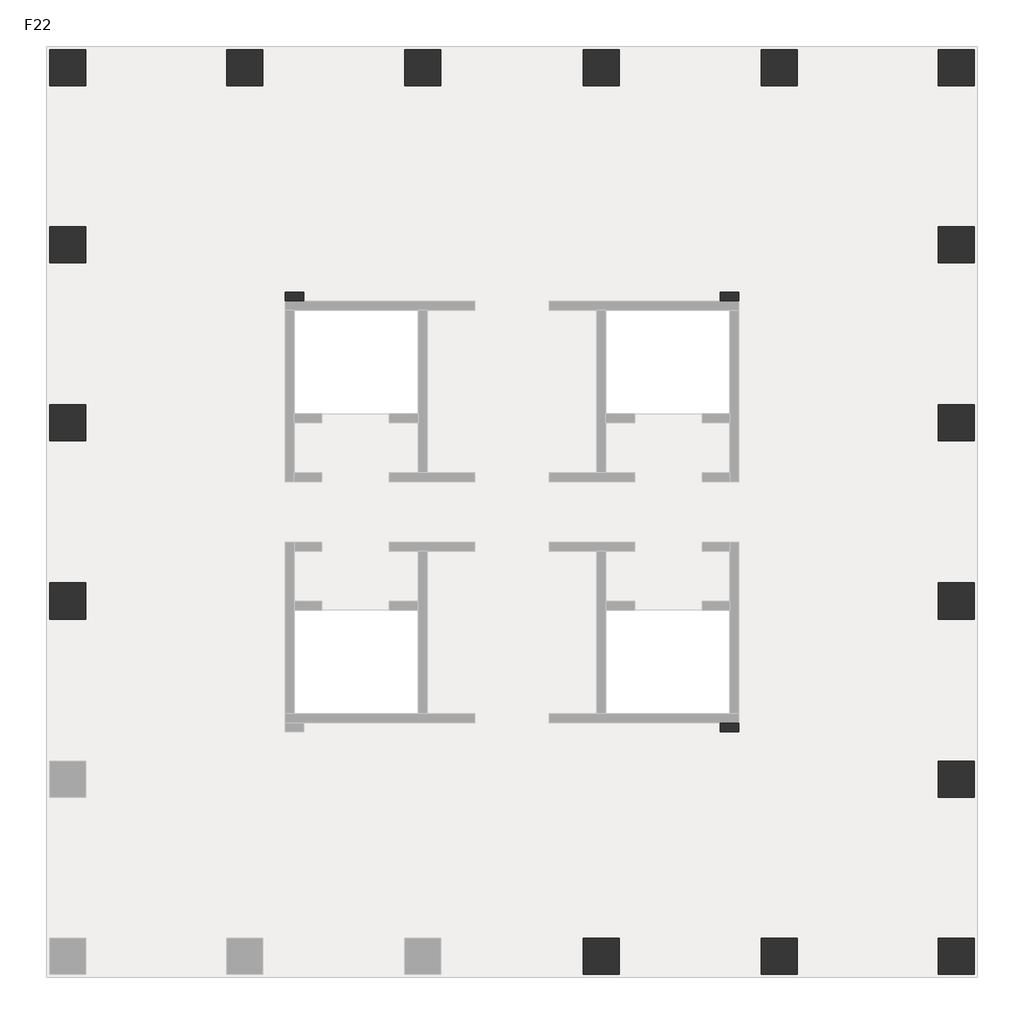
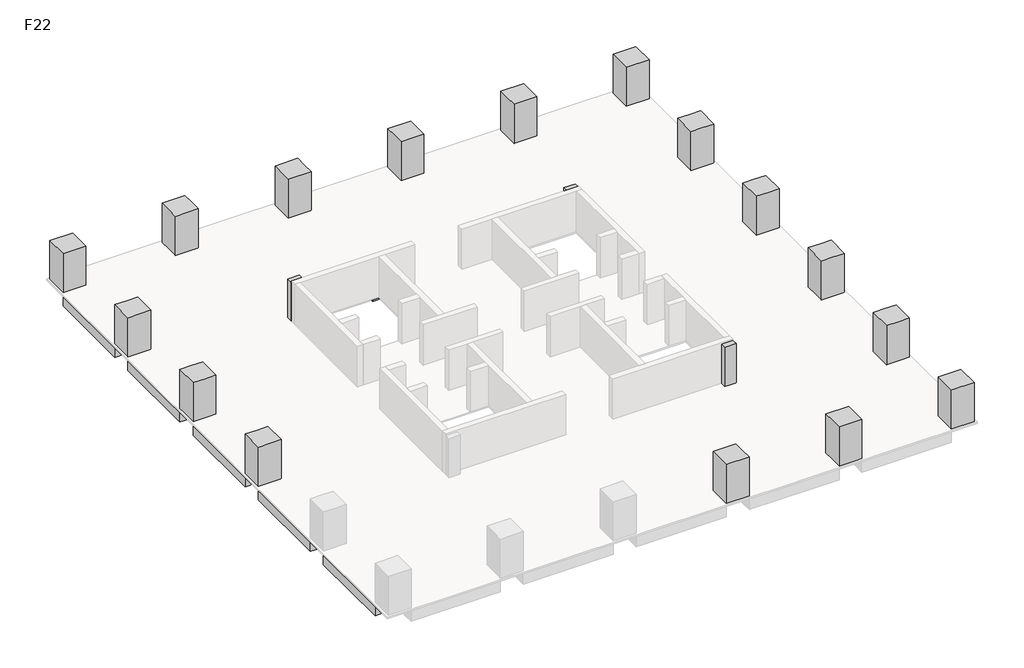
# One storey, part 2 of 2: 19 columns, 17 beams.
"""IFC4 building model written with IfcOpenShell, lengths in millimetres."""

from ifc_helpers import new_model, si_unit, frame, origin, place, context, project, spatial, polyline, outline, extrude, faceted_brep, element, save

model = new_model("IFC4")

# Units and contexts
model_context = context("Model", 3, world=origin())
ifc_project = project(units=[si_unit("LENGTHUNIT", "METRE", prefix="MILLI")], contexts=[model_context])

# Site, building, storey
site = spatial("IfcSite", under=ifc_project)
building = spatial("IfcBuilding", under=site)
storey = spatial("IfcBuildingStorey", under=building, Name="F22", Elevation=84000.0)

# Beams
placement = place(None, origin())
element("IfcBeam", 1, ObjectType="混凝土 - 矩形梁 : KL(5)-800x1000", at=placement, inside=storey, context=model_context, shape_type="SweptSolid", body=[
    extrude(outline(polyline([(25327.3257831, 27051.0498658), (25327.3257831, 26251.0498658), (19077.3257831, 26251.0498658), (19077.3257831, 27051.0498658), (25327.3257831, 27051.0498658)])), frame((0.0, 0.0, 83000.0), z_axis=(0.0, 0.0, 1.0), x_axis=(1.0, 0.0, 0.0)), (0.0, 0.0, 1.0), 900.0),
    extrude(outline(polyline([(-12472.6742169, 26251.0498658), (-12472.6742169, 27051.0498658), (-6222.6742169, 27051.0498658), (-6222.6742169, 26251.0498658), (-12472.6742169, 26251.0498658)])), frame((0.0, 0.0, 83000.0), z_axis=(0.0, 0.0, 1.0), x_axis=(1.0, 0.0, 0.0)), (0.0, 0.0, 1.0), 900.0),
    extrude(outline(polyline([(-4622.6742169, 26251.0498658), (-4622.6742169, 27051.0498658), (1677.3257831, 27051.0498658), (1677.3257831, 26251.0498658), (-4622.6742169, 26251.0498658)])), frame((0.0, 0.0, 83000.0), z_axis=(0.0, 0.0, 1.0), x_axis=(1.0, 0.0, 0.0)), (0.0, 0.0, 1.0), 900.0),
    extrude(outline(polyline([(3277.3257831, 26251.0498658), (3277.3257831, 27051.0498658), (9577.3257831, 27051.0498658), (9577.3257831, 26251.0498658), (3277.3257831, 26251.0498658)])), frame((0.0, 0.0, 83000.0), z_axis=(0.0, 0.0, 1.0), x_axis=(1.0, 0.0, 0.0)), (0.0, 0.0, 1.0), 900.0),
    extrude(outline(polyline([(11177.3257831, 26251.0498658), (11177.3257831, 27051.0498658), (17477.3257831, 27051.0498658), (17477.3257831, 26251.0498658), (11177.3257831, 26251.0498658)])), frame((0.0, 0.0, 83000.0), z_axis=(0.0, 0.0, 1.0), x_axis=(1.0, 0.0, 0.0)), (0.0, 0.0, 1.0), 900.0),
])
element("IfcBeam", 2, ObjectType="混凝土 - 矩形梁 : KL(5)-800x1000", at=placement, inside=storey, context=model_context, shape_type="SweptSolid", body=[
    extrude(outline(polyline([(26927.3257831, -12348.9501342), (26127.3257831, -12348.9501342), (26127.3257831, -6098.9501342), (26927.3257831, -6098.9501342), (26927.3257831, -12348.9501342)])), frame((0.0, 0.0, 83000.0), z_axis=(0.0, 0.0, 1.0), x_axis=(1.0, 0.0, 0.0)), (0.0, 0.0, 1.0), 900.0),
    extrude(outline(polyline([(26127.3257831, 25451.0498658), (26927.3257831, 25451.0498658), (26927.3257831, 19201.0498658), (26127.3257831, 19201.0498658), (26127.3257831, 25451.0498658)])), frame((0.0, 0.0, 83000.0), z_axis=(0.0, 0.0, 1.0), x_axis=(1.0, 0.0, 0.0)), (0.0, 0.0, 1.0), 900.0),
    extrude(outline(polyline([(26127.3257831, 17601.0498658), (26927.3257831, 17601.0498658), (26927.3257831, 11301.0498658), (26127.3257831, 11301.0498658), (26127.3257831, 17601.0498658)])), frame((0.0, 0.0, 83000.0), z_axis=(0.0, 0.0, 1.0), x_axis=(1.0, 0.0, 0.0)), (0.0, 0.0, 1.0), 900.0),
    extrude(outline(polyline([(26127.3257831, 9701.0498658), (26927.3257831, 9701.0498658), (26927.3257831, 3401.0498658), (26127.3257831, 3401.0498658), (26127.3257831, 9701.0498658)])), frame((0.0, 0.0, 83000.0), z_axis=(0.0, 0.0, 1.0), x_axis=(1.0, 0.0, 0.0)), (0.0, 0.0, 1.0), 900.0),
    extrude(outline(polyline([(26127.3257831, 1801.0498658), (26927.3257831, 1801.0498658), (26927.3257831, -4498.9501342), (26127.3257831, -4498.9501342), (26127.3257831, 1801.0498658)])), frame((0.0, 0.0, 83000.0), z_axis=(0.0, 0.0, 1.0), x_axis=(1.0, 0.0, 0.0)), (0.0, 0.0, 1.0), 900.0),
])
element("IfcBeam", 3, ObjectType="混凝土 - 矩形梁 : KL(5)-800x1000", at=placement, inside=storey, context=model_context, shape_type="SweptSolid", body=[
    extrude(outline(polyline([(-14072.6742169, 25451.0498658), (-13272.6742169, 25451.0498658), (-13272.6742169, 19201.0498658), (-14072.6742169, 19201.0498658), (-14072.6742169, 25451.0498658)])), frame((0.0, 0.0, 83000.0), z_axis=(0.0, 0.0, 1.0), x_axis=(1.0, 0.0, 0.0)), (0.0, 0.0, 1.0), 900.0),
    extrude(outline(polyline([(-13272.6742169, -12348.9501342), (-14072.6742169, -12348.9501342), (-14072.6742169, -6098.9501342), (-13272.6742169, -6098.9501342), (-13272.6742169, -12348.9501342)])), frame((0.0, 0.0, 83000.0), z_axis=(0.0, 0.0, 1.0), x_axis=(1.0, 0.0, 0.0)), (0.0, 0.0, 1.0), 900.0),
    extrude(outline(polyline([(-14072.6742169, 17601.0498658), (-13272.6742169, 17601.0498658), (-13272.6742169, 11301.0498658), (-14072.6742169, 11301.0498658), (-14072.6742169, 17601.0498658)])), frame((0.0, 0.0, 83000.0), z_axis=(0.0, 0.0, 1.0), x_axis=(1.0, 0.0, 0.0)), (0.0, 0.0, 1.0), 900.0),
    extrude(outline(polyline([(-14072.6742169, 9701.0498658), (-13272.6742169, 9701.0498658), (-13272.6742169, 3401.0498658), (-14072.6742169, 3401.0498658), (-14072.6742169, 9701.0498658)])), frame((0.0, 0.0, 83000.0), z_axis=(0.0, 0.0, 1.0), x_axis=(1.0, 0.0, 0.0)), (0.0, 0.0, 1.0), 900.0),
    extrude(outline(polyline([(-14072.6742169, 1801.0498658), (-13272.6742169, 1801.0498658), (-13272.6742169, -4498.9501342), (-14072.6742169, -4498.9501342), (-14072.6742169, 1801.0498658)])), frame((0.0, 0.0, 83000.0), z_axis=(0.0, 0.0, 1.0), x_axis=(1.0, 0.0, 0.0)), (0.0, 0.0, 1.0), 900.0),
])
element("IfcBeam", 4, ObjectType="混凝土 - 矩形梁 : L1-800x500", at=placement, inside=storey, context=model_context, shape_type="SweptSolid", body=[
    extrude(outline(polyline([(-12472.6742169, 2201.0498658), (-12472.6742169, 3001.0498658), (-3622.6742169, 3001.0498658), (-3622.6742169, 2201.0498658), (-12472.6742169, 2201.0498658)])), frame((0.0, 0.0, 83500.0), z_axis=(0.0, 0.0, 1.0), x_axis=(1.0, 0.0, 0.0)), (0.0, 0.0, 1.0), 400.0),
])
element("IfcBeam", 5, ObjectType="混凝土 - 矩形梁 : L1-800x500", at=placement, inside=storey, context=model_context, shape_type="SweptSolid", body=[
    extrude(outline(polyline([(-12472.6742169, 10101.0498658), (-12472.6742169, 10901.0498658), (-3622.6742169, 10901.0498658), (-3622.6742169, 10101.0498658), (-12472.6742169, 10101.0498658)])), frame((0.0, 0.0, 83500.0), z_axis=(0.0, 0.0, 1.0), x_axis=(1.0, 0.0, 0.0)), (0.0, 0.0, 1.0), 400.0),
])
element("IfcBeam", 6, ObjectType="混凝土 - 矩形梁 : L1-800x500", at=placement, inside=storey, context=model_context, shape_type="Brep", body=[
    faceted_brep([(-12472.6742169, 17789.85471, 83500.0), (-3622.6742169, 15588.3621727, 83500.0), (-3622.6742169, 15588.3621727, 83900.0), (-12472.6742169, 17789.85471, 83900.0), (-3173.6696907, 16301.0498658, 83500.0), (-3622.6742169, 16301.0498658, 83500.0), (-3622.6742169, 15901.0498658, 83500.0), (-12472.6742169, 18614.2350714, 83500.0), (-3746.9473979, 16443.6562607, 83500.0), (-12472.6742169, 18614.2350714, 83900.0), (-3746.9473979, 16443.6562607, 83900.0), (-3173.6696907, 16301.0498658, 83900.0), (-3622.6742169, 16301.0498658, 83900.0)], [[[0, 1, 2, 3]], [[4, 5, 6, 1, 0, 7, 8]], [[4, 8, 7, 9, 10, 11]], [[6, 5, 12, 2, 1]], [[5, 4, 11, 12]], [[7, 0, 3, 9]], [[3, 2, 12, 11, 10, 9]]]),
])
element("IfcBeam", 7, ObjectType="混凝土 - 矩形梁 : L1-800x500", at=placement, inside=storey, context=model_context, shape_type="SweptSolid", body=[
    extrude(outline(polyline([(-3173.6696907, 16301.0498658), (-3746.9473979, 16443.6562607), (-5661.5624638, 25451.0498658), (-4843.6893517, 25451.0498658), (-2898.7618154, 16301.0498658), (-3173.6696907, 16301.0498658)])), frame((0.0, 0.0, 83500.0), z_axis=(0.0, 0.0, 1.0), x_axis=(1.0, 0.0, 0.0)), (0.0, 0.0, 1.0), 400.0),
])
element("IfcBeam", 8, ObjectType="混凝土 - 矩形梁 : L1-800x500", at=placement, inside=storey, context=model_context, shape_type="SweptSolid", body=[
    extrude(outline(polyline([(2077.3257831, 25451.0498658), (2877.3257831, 25451.0498658), (2877.3257831, 15901.0498658), (2077.3257831, 15901.0498658), (2077.3257831, 25451.0498658)])), frame((0.0, 0.0, 83500.0), z_axis=(0.0, 0.0, 1.0), x_axis=(1.0, 0.0, 0.0)), (0.0, 0.0, 1.0), 400.0),
])
element("IfcBeam", 9, ObjectType="混凝土 - 矩形梁 : L1-800x500", at=placement, inside=storey, context=model_context, shape_type="SweptSolid", body=[
    extrude(outline(polyline([(9977.3257831, 25451.0498658), (10777.3257831, 25451.0498658), (10777.3257831, 15901.0498658), (9977.3257831, 15901.0498658), (9977.3257831, 25451.0498658)])), frame((0.0, 0.0, 83500.0), z_axis=(0.0, 0.0, 1.0), x_axis=(1.0, 0.0, 0.0)), (0.0, 0.0, 1.0), 400.0),
])
element("IfcBeam", 10, ObjectType="混凝土 - 矩形梁 : L1-800x500", at=placement, inside=storey, context=model_context, shape_type="SweptSolid", body=[
    extrude(outline(polyline([(2877.3257831, -12348.9501342), (2077.3257831, -12348.9501342), (2077.3257831, -2798.9501342), (2877.3257831, -2798.9501342), (2877.3257831, -12348.9501342)])), frame((0.0, 0.0, 83500.0), z_axis=(0.0, 0.0, 1.0), x_axis=(1.0, 0.0, 0.0)), (0.0, 0.0, 1.0), 400.0),
])
element("IfcBeam", 11, ObjectType="混凝土 - 矩形梁 : L1-800x500", at=placement, inside=storey, context=model_context, shape_type="SweptSolid", body=[
    extrude(outline(polyline([(10777.3257831, -12348.9501342), (9977.3257831, -12348.9501342), (9977.3257831, -2798.9501342), (10777.3257831, -2798.9501342), (10777.3257831, -12348.9501342)])), frame((0.0, 0.0, 83500.0), z_axis=(0.0, 0.0, 1.0), x_axis=(1.0, 0.0, 0.0)), (0.0, 0.0, 1.0), 400.0),
])
element("IfcBeam", 12, ObjectType="混凝土 - 矩形梁 : L1-800x500", at=placement, inside=storey, context=model_context, shape_type="Brep", body=[
    faceted_brep([(25327.3257831, -4687.7549784, 83500.0), (16477.3257831, -2486.2624411, 83500.0), (16477.3257831, -2486.2624411, 83900.0), (25327.3257831, -4687.7549784, 83900.0), (16028.3212569, -3198.9501342, 83500.0), (16477.3257831, -3198.9501342, 83500.0), (16477.3257831, -2798.9501342, 83500.0), (25327.3257831, -5512.1353397, 83500.0), (16601.5989641, -3341.556529, 83500.0), (25327.3257831, -5512.1353397, 83900.0), (16601.5989641, -3341.556529, 83900.0), (16028.3212569, -3198.9501342, 83900.0), (16477.3257831, -3198.9501342, 83900.0)], [[[0, 1, 2, 3]], [[4, 5, 6, 1, 0, 7, 8]], [[4, 8, 7, 9, 10, 11]], [[6, 5, 12, 2, 1]], [[5, 4, 11, 12]], [[7, 0, 3, 9]], [[3, 2, 12, 11, 10, 9]]]),
])
element("IfcBeam", 13, ObjectType="混凝土 - 矩形梁 : L1-800x500", at=placement, inside=storey, context=model_context, shape_type="SweptSolid", body=[
    extrude(outline(polyline([(16028.3212569, -3198.9501342), (16601.5989641, -3341.556529), (18516.21403, -12348.9501342), (17698.3409179, -12348.9501342), (15753.4133817, -3198.9501342), (16028.3212569, -3198.9501342)])), frame((0.0, 0.0, 83500.0), z_axis=(0.0, 0.0, 1.0), x_axis=(1.0, 0.0, 0.0)), (0.0, 0.0, 1.0), 400.0),
])
element("IfcBeam", 14, ObjectType="混凝土 - 矩形梁 : L1-800x500", at=placement, inside=storey, context=model_context, shape_type="SweptSolid", body=[
    extrude(outline(polyline([(25327.3257831, 3001.0498658), (25327.3257831, 2201.0498658), (16477.3257831, 2201.0498658), (16477.3257831, 3001.0498658), (25327.3257831, 3001.0498658)])), frame((0.0, 0.0, 83500.0), z_axis=(0.0, 0.0, 1.0), x_axis=(1.0, 0.0, 0.0)), (0.0, 0.0, 1.0), 400.0),
])
element("IfcBeam", 15, ObjectType="混凝土 - 矩形梁 : L1-800x500", at=placement, inside=storey, context=model_context, shape_type="SweptSolid", body=[
    extrude(outline(polyline([(25327.3257831, 10901.0498658), (25327.3257831, 10101.0498658), (16477.3257831, 10101.0498658), (16477.3257831, 10901.0498658), (25327.3257831, 10901.0498658)])), frame((0.0, 0.0, 83500.0), z_axis=(0.0, 0.0, 1.0), x_axis=(1.0, 0.0, 0.0)), (0.0, 0.0, 1.0), 400.0),
])
element("IfcBeam", 16, ObjectType="混凝土 - 矩形梁 : L1-800x500", at=placement, inside=storey, context=model_context, shape_type="Brep", body=[
    faceted_brep([(25327.3257831, 18610.6867312, 83500.0), (16590.8993897, 16393.3196262, 83500.0), (16227.3565337, 16301.0498658, 83500.0), (16227.3565337, 16301.0498658, 83900.0), (16590.8993897, 16393.3196262, 83900.0), (25327.3257831, 18610.6867312, 83900.0), (16477.3257831, 16301.0498658, 83500.0), (25327.3257831, 17785.3216299, 83500.0), (16477.3257831, 15539.1287365, 83500.0), (16477.3257831, 15901.0498658, 83500.0), (25327.3257831, 17785.3216299, 83900.0), (16477.3257831, 15539.1287365, 83900.0), (16477.3257831, 16301.0498658, 83900.0)], [[[0, 1, 2, 3, 4, 5]], [[6, 2, 1, 0, 7, 8, 9]], [[8, 7, 10, 11]], [[9, 8, 11, 12, 6]], [[2, 6, 12, 3]], [[7, 0, 5, 10]], [[5, 4, 3, 12, 11, 10]]]),
])
element("IfcBeam", 17, ObjectType="混凝土 - 矩形梁 : L1-800x500", at=placement, inside=storey, context=model_context, shape_type="SweptSolid", body=[
    extrude(outline(polyline([(16590.8993897, 16393.3196262), (16227.3565337, 16301.0498658), (15753.4133817, 16301.0498658), (17698.3409179, 25451.0498658), (18516.21403, 25451.0498658), (16590.8993897, 16393.3196262)])), frame((0.0, 0.0, 83500.0), z_axis=(0.0, 0.0, 1.0), x_axis=(1.0, 0.0, 0.0)), (0.0, 0.0, 1.0), 400.0),
])

# Columns
element("IfcColumn", 18, ObjectType="混凝土 - 矩形 - 柱 : Z1-1600x1600", at=placement, inside=storey, context=model_context, shape_type="SweptSolid", body=[
    extrude(outline(polyline([(-12472.6742169, 27051.0498658), (-12472.6742169, 25451.0498658), (-14072.6742169, 25451.0498658), (-14072.6742169, 27051.0498658), (-12472.6742169, 27051.0498658)])), frame((0.0, 0.0, 84000.0), z_axis=(0.0, 0.0, 1.0), x_axis=(1.0, 0.0, 0.0)), (0.0, 0.0, 1.0), 2900.0),
])
element("IfcColumn", 19, ObjectType="混凝土 - 矩形 - 柱 : Z1-1600x1600", at=placement, inside=storey, context=model_context, shape_type="Brep", body=[
    faceted_brep([(-4622.6742169, 27051.0498658, 84000.0), (-4622.6742169, 25451.0498658, 84000.0), (-6222.6742169, 25451.0498658, 84000.0), (-6222.6742169, 27051.0498658, 84000.0), (-4622.6742169, 27051.0498658, 86000.0), (-4622.6742169, 27051.0498658, 86900.0), (-4622.6742169, 26251.0498658, 86900.0), (-4622.6742169, 25451.0498658, 86900.0), (-6222.6742169, 25451.0498658, 86900.0), (-6222.6742169, 26251.0498658, 86900.0), (-6222.6742169, 27051.0498658, 86900.0), (-6222.6742169, 27051.0498658, 86000.0)], [[[0, 1, 2, 3]], [[1, 0, 4, 5, 6, 7]], [[2, 1, 7, 8]], [[3, 2, 8, 9, 10, 11]], [[0, 3, 11, 10, 5, 4]], [[7, 6, 5, 10, 9, 8]]]),
])
element("IfcColumn", 20, ObjectType="混凝土 - 矩形 - 柱 : Z1-1600x1600", at=placement, inside=storey, context=model_context, shape_type="Brep", body=[
    faceted_brep([(-12472.6742169, 19201.0498658, 84000.0), (-12472.6742169, 17601.0498658, 84000.0), (-14072.6742169, 17601.0498658, 84000.0), (-14072.6742169, 19201.0498658, 84000.0), (-12472.6742169, 19201.0498658, 86900.0), (-12472.6742169, 17601.0498658, 86900.0), (-13272.6742169, 17601.0498658, 86900.0), (-14072.6742169, 17601.0498658, 86900.0), (-14072.6742169, 17601.0498658, 86000.0), (-14072.6742169, 19201.0498658, 86900.0), (-14072.6742169, 19201.0498658, 86000.0), (-13272.6742169, 19201.0498658, 86900.0)], [[[0, 1, 2, 3]], [[1, 0, 4, 5]], [[2, 1, 5, 6, 7, 8]], [[3, 2, 8, 7, 9, 10]], [[0, 3, 10, 9, 11, 4]], [[5, 4, 11, 9, 7, 6]]]),
])
element("IfcColumn", 21, ObjectType="混凝土 - 矩形 - 柱 : Z1-1600x1600", at=placement, inside=storey, context=model_context, shape_type="Brep", body=[
    faceted_brep([(-12472.6742169, 11301.0498658, 84000.0), (-12472.6742169, 9701.0498658, 84000.0), (-14072.6742169, 9701.0498658, 84000.0), (-14072.6742169, 11301.0498658, 84000.0), (-12472.6742169, 11301.0498658, 86900.0), (-12472.6742169, 9701.0498658, 86900.0), (-13272.6742169, 9701.0498658, 86900.0), (-14072.6742169, 9701.0498658, 86900.0), (-14072.6742169, 9701.0498658, 86000.0), (-14072.6742169, 11301.0498658, 86900.0), (-14072.6742169, 11301.0498658, 86000.0), (-13272.6742169, 11301.0498658, 86900.0)], [[[0, 1, 2, 3]], [[1, 0, 4, 5]], [[2, 1, 5, 6, 7, 8]], [[3, 2, 8, 7, 9, 10]], [[0, 3, 10, 9, 11, 4]], [[5, 4, 11, 9, 7, 6]]]),
])
element("IfcColumn", 22, ObjectType="混凝土 - 矩形 - 柱 : Z1-1600x1600", at=placement, inside=storey, context=model_context, shape_type="Brep", body=[
    faceted_brep([(-12472.6742169, 3401.0498658, 84000.0), (-12472.6742169, 1801.0498658, 84000.0), (-14072.6742169, 1801.0498658, 84000.0), (-14072.6742169, 3401.0498658, 84000.0), (-12472.6742169, 3401.0498658, 86900.0), (-12472.6742169, 1801.0498658, 86900.0), (-13272.6742169, 1801.0498658, 86900.0), (-14072.6742169, 1801.0498658, 86900.0), (-14072.6742169, 1801.0498658, 86000.0), (-14072.6742169, 3401.0498658, 86900.0), (-14072.6742169, 3401.0498658, 86000.0), (-13272.6742169, 3401.0498658, 86900.0)], [[[0, 1, 2, 3]], [[1, 0, 4, 5]], [[2, 1, 5, 6, 7, 8]], [[3, 2, 8, 7, 9, 10]], [[0, 3, 10, 9, 11, 4]], [[5, 4, 11, 9, 7, 6]]]),
])
element("IfcColumn", 23, ObjectType="混凝土 - 矩形 - 柱 : Z1-1600x1600", at=placement, inside=storey, context=model_context, shape_type="SweptSolid", body=[
    extrude(outline(polyline([(25327.3257831, 27051.0498658), (26927.3257831, 27051.0498658), (26927.3257831, 25451.0498658), (25327.3257831, 25451.0498658), (25327.3257831, 27051.0498658)])), frame((0.0, 0.0, 84000.0), z_axis=(0.0, 0.0, 1.0), x_axis=(1.0, 0.0, 0.0)), (0.0, 0.0, 1.0), 2900.0),
])
element("IfcColumn", 24, ObjectType="混凝土 - 矩形 - 柱 : Z1-1600x1600", at=placement, inside=storey, context=model_context, shape_type="Brep", body=[
    faceted_brep([(25327.3257831, 19201.0498658, 84000.0), (26927.3257831, 19201.0498658, 84000.0), (26927.3257831, 17601.0498658, 84000.0), (25327.3257831, 17601.0498658, 84000.0), (25327.3257831, 17601.0498658, 86900.0), (25327.3257831, 19201.0498658, 86900.0), (26927.3257831, 17601.0498658, 86000.0), (26927.3257831, 17601.0498658, 86900.0), (26127.3257831, 17601.0498658, 86900.0), (26927.3257831, 19201.0498658, 86000.0), (26927.3257831, 19201.0498658, 86900.0), (26127.3257831, 19201.0498658, 86900.0)], [[[0, 1, 2, 3]], [[0, 3, 4, 5]], [[3, 2, 6, 7, 8, 4]], [[2, 1, 9, 10, 7, 6]], [[1, 0, 5, 11, 10, 9]], [[5, 4, 8, 7, 10, 11]]]),
])
element("IfcColumn", 25, ObjectType="混凝土 - 矩形 - 柱 : Z1-1600x1600", at=placement, inside=storey, context=model_context, shape_type="Brep", body=[
    faceted_brep([(25327.3257831, 11301.0498658, 84000.0), (26927.3257831, 11301.0498658, 84000.0), (26927.3257831, 9701.0498658, 84000.0), (25327.3257831, 9701.0498658, 84000.0), (25327.3257831, 9701.0498658, 86900.0), (25327.3257831, 11301.0498658, 86900.0), (26927.3257831, 9701.0498658, 86000.0), (26927.3257831, 9701.0498658, 86900.0), (26127.3257831, 9701.0498658, 86900.0), (26927.3257831, 11301.0498658, 86000.0), (26927.3257831, 11301.0498658, 86900.0), (26127.3257831, 11301.0498658, 86900.0)], [[[0, 1, 2, 3]], [[0, 3, 4, 5]], [[3, 2, 6, 7, 8, 4]], [[2, 1, 9, 10, 7, 6]], [[1, 0, 5, 11, 10, 9]], [[5, 4, 8, 7, 10, 11]]]),
])
element("IfcColumn", 26, ObjectType="混凝土 - 矩形 - 柱 : Z1-1600x1600", at=placement, inside=storey, context=model_context, shape_type="Brep", body=[
    faceted_brep([(25327.3257831, 3401.0498658, 84000.0), (26927.3257831, 3401.0498658, 84000.0), (26927.3257831, 1801.0498658, 84000.0), (25327.3257831, 1801.0498658, 84000.0), (25327.3257831, 1801.0498658, 86900.0), (25327.3257831, 3401.0498658, 86900.0), (26927.3257831, 1801.0498658, 86000.0), (26927.3257831, 1801.0498658, 86900.0), (26127.3257831, 1801.0498658, 86900.0), (26927.3257831, 3401.0498658, 86000.0), (26927.3257831, 3401.0498658, 86900.0), (26127.3257831, 3401.0498658, 86900.0)], [[[0, 1, 2, 3]], [[0, 3, 4, 5]], [[3, 2, 6, 7, 8, 4]], [[2, 1, 9, 10, 7, 6]], [[1, 0, 5, 11, 10, 9]], [[5, 4, 8, 7, 10, 11]]]),
])
element("IfcColumn", 27, ObjectType="混凝土 - 矩形 - 柱 : Z1-1600x1600", at=placement, inside=storey, context=model_context, shape_type="Brep", body=[
    faceted_brep([(25327.3257831, -4498.9501342, 84000.0), (26927.3257831, -4498.9501342, 84000.0), (26927.3257831, -6098.9501342, 84000.0), (25327.3257831, -6098.9501342, 84000.0), (25327.3257831, -6098.9501342, 86900.0), (25327.3257831, -4498.9501342, 86900.0), (26927.3257831, -6098.9501342, 86000.0), (26927.3257831, -6098.9501342, 86900.0), (26127.3257831, -6098.9501342, 86900.0), (26927.3257831, -4498.9501342, 86000.0), (26927.3257831, -4498.9501342, 86900.0), (26127.3257831, -4498.9501342, 86900.0)], [[[0, 1, 2, 3]], [[0, 3, 4, 5]], [[3, 2, 6, 7, 8, 4]], [[2, 1, 9, 10, 7, 6]], [[1, 0, 5, 11, 10, 9]], [[5, 4, 8, 7, 10, 11]]]),
])
element("IfcColumn", 28, ObjectType="混凝土 - 矩形 - 柱 : Z1-1600x1600", at=placement, inside=storey, context=model_context, shape_type="SweptSolid", body=[
    extrude(outline(polyline([(25327.3257831, -12348.9501342), (26927.3257831, -12348.9501342), (26927.3257831, -13948.9501342), (25327.3257831, -13948.9501342), (25327.3257831, -12348.9501342)])), frame((0.0, 0.0, 84000.0), z_axis=(0.0, 0.0, 1.0), x_axis=(1.0, 0.0, 0.0)), (0.0, 0.0, 1.0), 2900.0),
])
element("IfcColumn", 29, ObjectType="混凝土 - 矩形 - 柱 : Z1-1600x1600", at=placement, inside=storey, context=model_context, shape_type="Brep", body=[
    faceted_brep([(3277.3257831, 27051.0498658, 84000.0), (3277.3257831, 25451.0498658, 84000.0), (1677.3257831, 25451.0498658, 84000.0), (1677.3257831, 27051.0498658, 84000.0), (3277.3257831, 27051.0498658, 86000.0), (3277.3257831, 27051.0498658, 86900.0), (3277.3257831, 26251.0498658, 86900.0), (3277.3257831, 25451.0498658, 86900.0), (1677.3257831, 25451.0498658, 86900.0), (1677.3257831, 26251.0498658, 86900.0), (1677.3257831, 27051.0498658, 86900.0), (1677.3257831, 27051.0498658, 86000.0)], [[[0, 1, 2, 3]], [[1, 0, 4, 5, 6, 7]], [[2, 1, 7, 8]], [[3, 2, 8, 9, 10, 11]], [[0, 3, 11, 10, 5, 4]], [[7, 6, 5, 10, 9, 8]]]),
])
element("IfcColumn", 30, ObjectType="混凝土 - 矩形 - 柱 : Z1-1600x1600", at=placement, inside=storey, context=model_context, shape_type="Brep", body=[
    faceted_brep([(11177.3257831, 27051.0498658, 84000.0), (11177.3257831, 25451.0498658, 84000.0), (9577.3257831, 25451.0498658, 84000.0), (9577.3257831, 27051.0498658, 84000.0), (11177.3257831, 27051.0498658, 86000.0), (11177.3257831, 27051.0498658, 86900.0), (11177.3257831, 26251.0498658, 86900.0), (11177.3257831, 25451.0498658, 86900.0), (9577.3257831, 25451.0498658, 86900.0), (9577.3257831, 26251.0498658, 86900.0), (9577.3257831, 27051.0498658, 86900.0), (9577.3257831, 27051.0498658, 86000.0)], [[[0, 1, 2, 3]], [[1, 0, 4, 5, 6, 7]], [[2, 1, 7, 8]], [[3, 2, 8, 9, 10, 11]], [[0, 3, 11, 10, 5, 4]], [[7, 6, 5, 10, 9, 8]]]),
])
element("IfcColumn", 31, ObjectType="混凝土 - 矩形 - 柱 : Z1-1600x1600", at=placement, inside=storey, context=model_context, shape_type="Brep", body=[
    faceted_brep([(19077.3257831, 27051.0498658, 84000.0), (19077.3257831, 25451.0498658, 84000.0), (17477.3257831, 25451.0498658, 84000.0), (17477.3257831, 27051.0498658, 84000.0), (19077.3257831, 27051.0498658, 86000.0), (19077.3257831, 27051.0498658, 86900.0), (19077.3257831, 26251.0498658, 86900.0), (19077.3257831, 25451.0498658, 86900.0), (17477.3257831, 25451.0498658, 86900.0), (17477.3257831, 26251.0498658, 86900.0), (17477.3257831, 27051.0498658, 86900.0), (17477.3257831, 27051.0498658, 86000.0)], [[[0, 1, 2, 3]], [[1, 0, 4, 5, 6, 7]], [[2, 1, 7, 8]], [[3, 2, 8, 9, 10, 11]], [[0, 3, 11, 10, 5, 4]], [[7, 6, 5, 10, 9, 8]]]),
])
element("IfcColumn", 32, ObjectType="混凝土 - 矩形 - 柱 : Z1-1600x1600", at=placement, inside=storey, context=model_context, shape_type="Brep", body=[
    faceted_brep([(11177.3257831, -12348.9501342, 84000.0), (11177.3257831, -13948.9501342, 84000.0), (9577.3257831, -13948.9501342, 84000.0), (9577.3257831, -12348.9501342, 84000.0), (11177.3257831, -12348.9501342, 86900.0), (11177.3257831, -13148.9501342, 86900.0), (11177.3257831, -13948.9501342, 86900.0), (11177.3257831, -13948.9501342, 86000.0), (9577.3257831, -13948.9501342, 86900.0), (9577.3257831, -13948.9501342, 86000.0), (9577.3257831, -13148.9501342, 86900.0), (9577.3257831, -12348.9501342, 86900.0)], [[[0, 1, 2, 3]], [[1, 0, 4, 5, 6, 7]], [[2, 1, 7, 6, 8, 9]], [[3, 2, 9, 8, 10, 11]], [[0, 3, 11, 4]], [[6, 5, 4, 11, 10, 8]]]),
])
element("IfcColumn", 33, ObjectType="混凝土 - 矩形 - 柱 : Z1-1600x1600", at=placement, inside=storey, context=model_context, shape_type="Brep", body=[
    faceted_brep([(19077.3257831, -12348.9501342, 84000.0), (19077.3257831, -13948.9501342, 84000.0), (17477.3257831, -13948.9501342, 84000.0), (17477.3257831, -12348.9501342, 84000.0), (19077.3257831, -12348.9501342, 86900.0), (19077.3257831, -13148.9501342, 86900.0), (19077.3257831, -13948.9501342, 86900.0), (19077.3257831, -13948.9501342, 86000.0), (17477.3257831, -13948.9501342, 86900.0), (17477.3257831, -13948.9501342, 86000.0), (17477.3257831, -13148.9501342, 86900.0), (17477.3257831, -12348.9501342, 86900.0)], [[[0, 1, 2, 3]], [[1, 0, 4, 5, 6, 7]], [[2, 1, 7, 6, 8, 9]], [[3, 2, 9, 8, 10, 11]], [[0, 3, 11, 4]], [[6, 5, 4, 11, 10, 8]]]),
])
element("IfcColumn", 34, ObjectType="混凝土 - 矩形 - 柱 : Z2-800x800", at=placement, inside=storey, context=model_context, shape_type="SweptSolid", body=[
    extrude(outline(polyline([(-3622.6742169, 16301.0498658), (-2822.6742169, 16301.0498658), (-2822.6742169, 15901.0498658), (-3622.6742169, 15901.0498658), (-3622.6742169, 16301.0498658)])), frame((0.0, 0.0, 84000.0), z_axis=(0.0, 0.0, 1.0), x_axis=(1.0, 0.0, 0.0)), (0.0, 0.0, 1.0), 2900.0),
])
element("IfcColumn", 35, ObjectType="混凝土 - 矩形 - 柱 : Z2-800x800", at=placement, inside=storey, context=model_context, shape_type="SweptSolid", body=[
    extrude(outline(polyline([(16477.3257831, -3198.9501342), (15677.3257831, -3198.9501342), (15677.3257831, -2798.9501342), (16477.3257831, -2798.9501342), (16477.3257831, -3198.9501342)])), frame((0.0, 0.0, 84000.0), z_axis=(0.0, 0.0, 1.0), x_axis=(1.0, 0.0, 0.0)), (0.0, 0.0, 1.0), 2900.0),
])
element("IfcColumn", 36, ObjectType="混凝土 - 矩形 - 柱 : Z2-800x800", at=placement, inside=storey, context=model_context, shape_type="SweptSolid", body=[
    extrude(outline(polyline([(15677.3257831, 16301.0498658), (16477.3257831, 16301.0498658), (16477.3257831, 15901.0498658), (15677.3257831, 15901.0498658), (15677.3257831, 16301.0498658)])), frame((0.0, 0.0, 84000.0), z_axis=(0.0, 0.0, 1.0), x_axis=(1.0, 0.0, 0.0)), (0.0, 0.0, 1.0), 2900.0),
])

save(model, "model.ifc")
